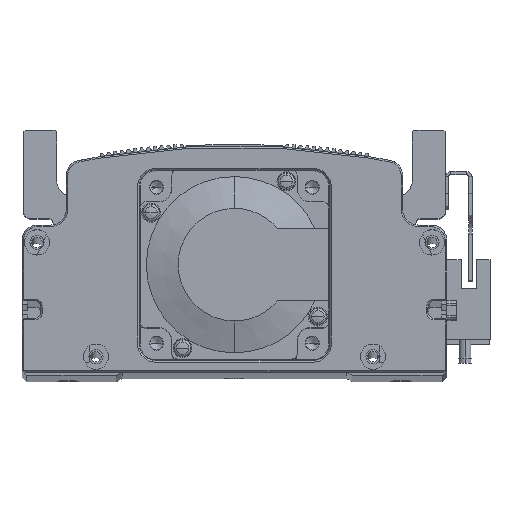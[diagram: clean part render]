
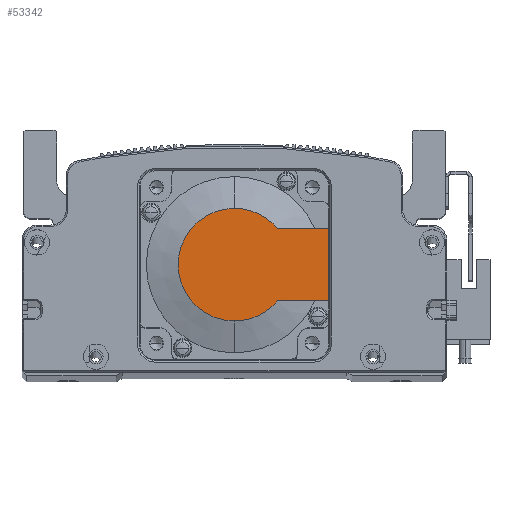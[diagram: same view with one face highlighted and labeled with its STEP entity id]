
A CAD part, top view. The second image highlights one B-rep face of the part: STEP entity #53342.
In plain terms, the highlighted planar face has unit normal (0, 0, 1) as drawn and (-1, 0, 0) by its records, which use the part's own axes.
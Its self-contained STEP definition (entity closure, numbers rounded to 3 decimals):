
#874 = CARTESIAN_POINT ( 'NONE',  ( -118.5, 13.735, -11.45 ) ) ;
#1751 = VERTEX_POINT ( 'NONE', #8473 ) ;
#4148 = ORIENTED_EDGE ( 'NONE', *, *, #15556, .F. ) ;
#4821 = AXIS2_PLACEMENT_3D ( 'NONE', #38091, #53848, #5354 ) ;
#5011 = DIRECTION ( 'NONE',  ( -1., 0., 0. ) ) ;
#5354 = DIRECTION ( 'NONE',  ( 0., 0., -1. ) ) ;
#5474 = EDGE_CURVE ( 'NONE', #36576, #30732, #60009, .T. ) ;
#6621 = DIRECTION ( 'NONE',  ( 0., -1., 0. ) ) ;
#7673 = DIRECTION ( 'NONE',  ( 0., 0., -1. ) ) ;
#8473 = CARTESIAN_POINT ( 'NONE',  ( -118.5, 13.735, 11.45 ) ) ;
#9272 = CARTESIAN_POINT ( 'NONE',  ( -118.5, 30., 11.45 ) ) ;
#9284 = CARTESIAN_POINT ( 'NONE',  ( -118.5, 30., -11.45 ) ) ;
#10838 = FACE_OUTER_BOUND ( 'NONE', #19775, .T. ) ;
#11250 = ORIENTED_EDGE ( 'NONE', *, *, #28195, .F. ) ;
#11555 = EDGE_CURVE ( 'NONE', #30732, #24602, #16707, .T. ) ;
#15556 = EDGE_CURVE ( 'NONE', #60565, #1751, #47549, .T. ) ;
#16406 = EDGE_CURVE ( 'NONE', #24602, #1751, #39754, .T. ) ;
#16707 = CIRCLE ( 'NONE', #4821, 17.881 ) ;
#17352 = LINE ( 'NONE', #44827, #56619 ) ;
#18611 = CARTESIAN_POINT ( 'NONE',  ( -118.5, 0., -17.881 ) ) ;
#19775 = EDGE_LOOP ( 'NONE', ( #20029, #28249, #47664, #22912, #4148, #11250 ) ) ;
#20029 = ORIENTED_EDGE ( 'NONE', *, *, #36773, .T. ) ;
#20945 = CARTESIAN_POINT ( 'NONE',  ( -118.5, 0., 17.881 ) ) ;
#22912 = ORIENTED_EDGE ( 'NONE', *, *, #16406, .T. ) ;
#23776 = VECTOR ( 'NONE', #46628, 1000. ) ;
#24302 = CARTESIAN_POINT ( 'NONE',  ( -118.5, 0., 0. ) ) ;
#24602 = VERTEX_POINT ( 'NONE', #20945 ) ;
#26446 = CARTESIAN_POINT ( 'NONE',  ( -118.5, 30., 25. ) ) ;
#28195 = EDGE_CURVE ( 'NONE', #62088, #60565, #47360, .T. ) ;
#28249 = ORIENTED_EDGE ( 'NONE', *, *, #5474, .T. ) ;
#29501 = DIRECTION ( 'NONE',  ( -1., 0., 0. ) ) ;
#30732 = VERTEX_POINT ( 'NONE', #18611 ) ;
#36576 = VERTEX_POINT ( 'NONE', #874 ) ;
#36773 = EDGE_CURVE ( 'NONE', #62088, #36576, #17352, .T. ) ;
#38091 = CARTESIAN_POINT ( 'NONE',  ( -118.5, 0., 0. ) ) ;
#38907 = AXIS2_PLACEMENT_3D ( 'NONE', #57292, #51798, #68318 ) ;
#39715 = VECTOR ( 'NONE', #53792, 1000. ) ;
#39754 = CIRCLE ( 'NONE', #38907, 17.881 ) ;
#42303 = DIRECTION ( 'NONE',  ( 0., 0., 1. ) ) ;
#43713 = AXIS2_PLACEMENT_3D ( 'NONE', #24302, #29501, #7673 ) ;
#44827 = CARTESIAN_POINT ( 'NONE',  ( -118.5, -8.941, -11.45 ) ) ;
#46628 = DIRECTION ( 'NONE',  ( 0., -1., 0. ) ) ;
#47360 = LINE ( 'NONE', #26446, #39715 ) ;
#47519 = PLANE ( 'NONE',  #62773 ) ;
#47549 = LINE ( 'NONE', #63397, #23776 ) ;
#47664 = ORIENTED_EDGE ( 'NONE', *, *, #11555, .T. ) ;
#51798 = DIRECTION ( 'NONE',  ( -1., 0., 0. ) ) ;
#53342 = ADVANCED_FACE ( 'NONE', ( #10838 ), #47519, .T. ) ;
#53792 = DIRECTION ( 'NONE',  ( 0., 0., 1. ) ) ;
#53848 = DIRECTION ( 'NONE',  ( -1., 0., 0. ) ) ;
#56619 = VECTOR ( 'NONE', #6621, 1000. ) ;
#57292 = CARTESIAN_POINT ( 'NONE',  ( -118.5, 0., 0. ) ) ;
#60009 = CIRCLE ( 'NONE', #43713, 17.881 ) ;
#60565 = VERTEX_POINT ( 'NONE', #9272 ) ;
#62088 = VERTEX_POINT ( 'NONE', #9284 ) ;
#62773 = AXIS2_PLACEMENT_3D ( 'NONE', #64768, #5011, #42303 ) ;
#63397 = CARTESIAN_POINT ( 'NONE',  ( -118.5, 0., 11.45 ) ) ;
#64768 = CARTESIAN_POINT ( 'NONE',  ( -118.5, -8.941, 0. ) ) ;
#68318 = DIRECTION ( 'NONE',  ( 0., 0., -1. ) ) ;
